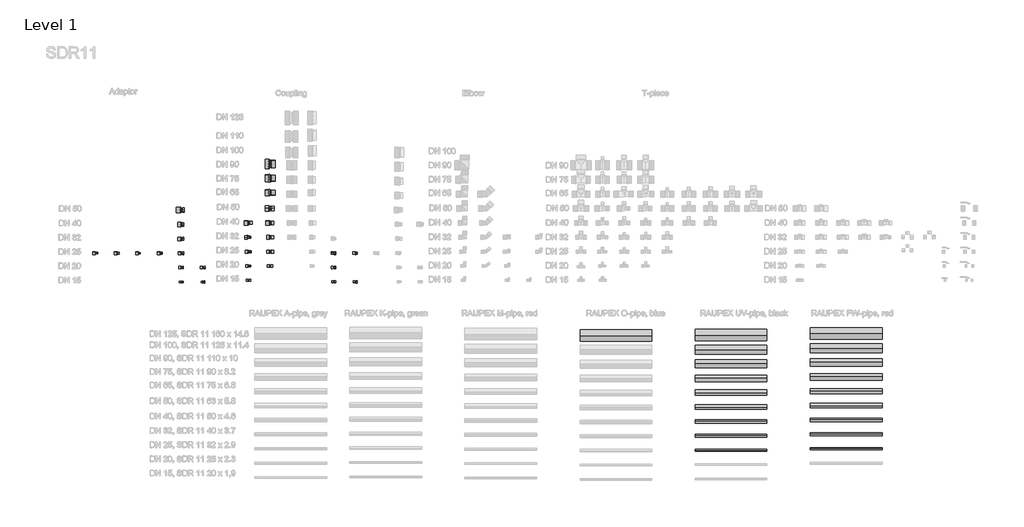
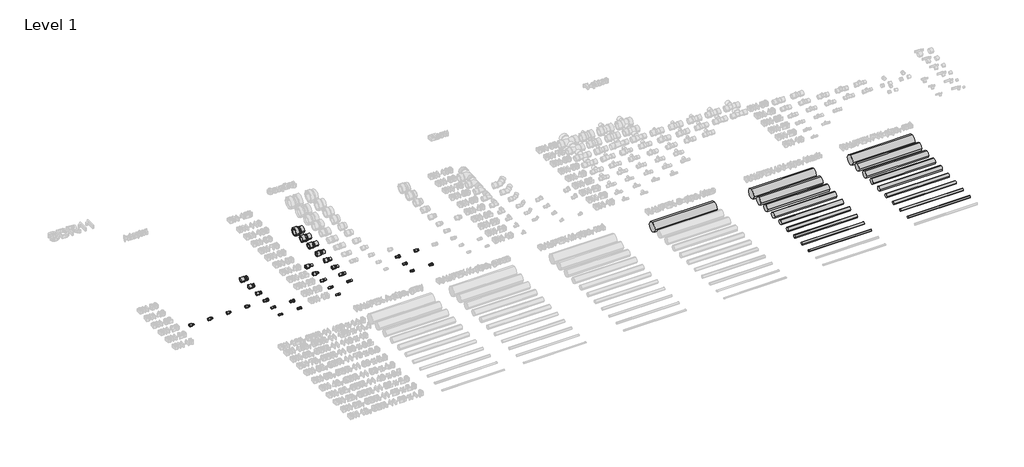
# One storey, part 2 of 15: 73 pipe fittings, 19 pipe segments.
"""IFC4 building model written with IfcOpenShell, lengths in millimetres."""

from ifc_helpers import new_model, si_unit, point, frame, frame_2d, origin, place, context, project, spatial, circle_curve, trimmed, segment, composite_curve, outline, extrude, transform, mapped, element, save
from components import pipe_fitting_af9ba397, pipe_fitting_2c702f34, pipe_fitting_00baa34a, pipe_fitting_dab1daa7, pipe_fitting_0d2e2301, pipe_fitting_c9fbcce2, pipe_fitting_3aadb600, pipe_fitting_378b12e4, pipe_fitting_98be0705, pipe_fitting_7b38b3fe, adapter_taper_sdr11_24_lx_bbcb70a0, adapter_taper_sdr11_24_lx_71f6f1ea, adapter_taper_sdr11_60_lx_8a038b16, adapter_taper_sdr11_60_lx_c4b14268, adapter_with_union_nut_sdr11_a_union_nut_lx_fcff2328, adapter_with_union_nut_sdr11_a_union_nut_lx_60ab4ac3, adapter_with_union_nut_sdr11_a_union_nut_lx_61cef82c, adapter_with_union_nut_sdr11_a_union_nut_lx_7cd68c92, adapter_with_union_nut_sdr11_a_union_nut_lx_64a525c3, adapter_with_union_nut_sdr11_a_union_nut_lx_b692c261, adapter_with_union_nut_sdr11_a_union_nut_lx_88bdcbd4, adapter_with_union_nut_sdr11_a_union_nut_lx_b8b73a84, coupling_union_0bb615ef, coupling_union_24488497, coupling_union_f24334cc, female_adapter_internal_thread_sdr11_female_adapter_lx_e3558355, female_adapter_internal_thread_sdr11_female_adapter_lx_b72150e8, female_adapter_internal_thread_sdr11_female_adapter_lx_0baaf817, female_adapter_internal_thread_sdr11_female_adapter_lx_4a9fde89, female_adapter_internal_thread_sdr11_female_adapter_lx_76b21a85, sleeve_lx_11_2e170aa1, sleeve_lx_11_3fcb8560, sleeve_lx_11_f19e3dbf, sleeve_lx_11_b9b419b6, sleeve_lx_11_e5eab1a7, sleeve_lx_11_ddfe2885, sleeve_rx_11_7b1edd19, sleeve_rx_11_d7843ee1, sleeve_rx_11_d7b6a074

model = new_model("IFC4")

# Units and contexts
model_context = context("Model", 3, world=origin())
ifc_project = project(units=[si_unit("LENGTHUNIT", "METRE", prefix="MILLI")], contexts=[model_context])

# Site, building, storey
site = spatial("IfcSite", under=ifc_project)
building = spatial("IfcBuilding", under=site)
storey = spatial("IfcBuildingStorey", under=building, Name="Level 1", Elevation=0.0)

# Pipe fittings
placement = place(None, origin())
pipe_fitting_shape = pipe_fitting_af9ba397(model_context)
element("IfcPipeFitting", 1, ObjectType="Coupling transistion : C RE SDR11 LX", at=placement, inside=storey, context=model_context, shape_type="MappedRepresentation", body=[
    mapped(pipe_fitting_shape, transform((11503.1112925, 840.5489138, 0.0), x_axis=(1.0, 0.0, 0.0), y_axis=(0.0, 1.0, 0.0), z_axis=(0.0, 0.0, 1.0))),
])
pipe_fitting_2_shape = pipe_fitting_2c702f34(model_context)
element("IfcPipeFitting", 2, ObjectType="Coupling transistion : C RE SDR11 RX", at=placement, inside=storey, context=model_context, shape_type="MappedRepresentation", body=[
    mapped(pipe_fitting_2_shape, transform((11803.1112925, 1660.5489138, 0.0), x_axis=(1.0, 0.0, 0.0), y_axis=(0.0, 1.0, 0.0), z_axis=(0.0, 0.0, 1.0))),
])
pipe_fitting_3_shape = pipe_fitting_00baa34a(model_context)
element("IfcPipeFitting", 3, ObjectType="Coupling transistion : C RE SDR11 LX", at=placement, inside=storey, context=model_context, shape_type="MappedRepresentation", body=[
    mapped(pipe_fitting_3_shape, transform((11503.1112925, 640.5489138, 0.0), x_axis=(1.0, 0.0, 0.0), y_axis=(0.0, 1.0, 0.0), z_axis=(0.0, 0.0, 1.0))),
])
pipe_fitting_4_shape = pipe_fitting_dab1daa7(model_context)
element("IfcPipeFitting", 4, ObjectType="Coupling transistion : C RE SDR11 LX", at=placement, inside=storey, context=model_context, shape_type="MappedRepresentation", body=[
    mapped(pipe_fitting_4_shape, transform((11503.1112925, 1040.5489138, 0.0), x_axis=(1.0, 0.0, 0.0), y_axis=(0.0, 0.0, -1.0), z_axis=(0.0, 1.0, 0.0))),
])
pipe_fitting_5_shape = pipe_fitting_0d2e2301(model_context)
element("IfcPipeFitting", 5, ObjectType="Coupling transistion : C RE SDR11 LX", at=placement, inside=storey, context=model_context, shape_type="MappedRepresentation", body=[
    mapped(pipe_fitting_5_shape, transform((11803.1112925, 1040.5489138, 0.0), x_axis=(1.0, 0.0, 0.0), y_axis=(0.0, 1.0, 0.0), z_axis=(0.0, 0.0, 1.0))),
])
pipe_fitting_6_shape = pipe_fitting_c9fbcce2(model_context)
element("IfcPipeFitting", 6, ObjectType="Coupling transistion : C RE SDR11 LX", at=placement, inside=storey, context=model_context, shape_type="MappedRepresentation", body=[
    mapped(pipe_fitting_6_shape, transform((11503.1112925, 1240.5489138, 0.0), x_axis=(1.0, 0.0, 0.0), y_axis=(0.0, 1.0, 0.0), z_axis=(0.0, 0.0, 1.0))),
])
pipe_fitting_7_shape = pipe_fitting_3aadb600(model_context)
element("IfcPipeFitting", 7, ObjectType="Coupling transistion : C RE SDR11 LX", at=placement, inside=storey, context=model_context, shape_type="MappedRepresentation", body=[
    mapped(pipe_fitting_7_shape, transform((11803.1112925, 1240.5489138, 0.0), x_axis=(1.0, 0.0, 0.0), y_axis=(0.0, 1.0, 0.0), z_axis=(0.0, 0.0, 1.0))),
])
pipe_fitting_8_shape = pipe_fitting_378b12e4(model_context)
element("IfcPipeFitting", 8, ObjectType="Coupling transistion : C RE SDR11 LX", at=placement, inside=storey, context=model_context, shape_type="MappedRepresentation", body=[
    mapped(pipe_fitting_8_shape, transform((11803.1112925, 1440.5489138, 0.0), x_axis=(1.0, 0.0, 0.0), y_axis=(0.0, 0.0, -1.0), z_axis=(0.0, 1.0, 0.0))),
])
pipe_fitting_9_shape = pipe_fitting_98be0705(model_context)
element("IfcPipeFitting", 9, ObjectType="Coupling transistion : C RE SDR11 RX", at=placement, inside=storey, context=model_context, shape_type="MappedRepresentation", body=[
    mapped(pipe_fitting_9_shape, transform((11803.1112925, 1860.5489138, 0.0), x_axis=(1.0, 0.0, 0.0), y_axis=(0.0, 1.0, 0.0), z_axis=(0.0, 0.0, 1.0))),
])
pipe_fitting_10_shape = pipe_fitting_7b38b3fe(model_context)
element("IfcPipeFitting", 10, ObjectType="Coupling transistion : C RE SDR11 RX", at=placement, inside=storey, context=model_context, shape_type="MappedRepresentation", body=[
    mapped(pipe_fitting_10_shape, transform((11803.1112925, 2060.5489138, 0.0), x_axis=(1.0, 0.0, 0.0), y_axis=(0.0, 1.0, 0.0), z_axis=(0.0, 0.0, 1.0))),
])
adapter_taper_sdr11_24_lx_shape = adapter_taper_sdr11_24_lx_bbcb70a0(model_context)
element("IfcPipeFitting", 11, ObjectType="Adapter taper SDR11 LX 24 Grad : Adapter taper SDR11 24 LX", at=placement, inside=storey, context=model_context, shape_type="MappedRepresentation", body=[
    mapped(adapter_taper_sdr11_24_lx_shape, transform((9376.3241815, 819.0534305, 0.0), x_axis=(1.0, 0.0, 0.0), y_axis=(0.0, 1.0, 0.0), z_axis=(0.0, 0.0, 1.0))),
])
adapter_taper_sdr11_24_lx_2_shape = adapter_taper_sdr11_24_lx_71f6f1ea(model_context)
element("IfcPipeFitting", 12, ObjectType="Adapter taper SDR11 LX 24 Grad : Adapter taper SDR11 24 LX", at=placement, inside=storey, context=model_context, shape_type="MappedRepresentation", body=[
    mapped(adapter_taper_sdr11_24_lx_2_shape, transform((9676.3241815, 819.0534305, 0.0), x_axis=(1.0, 0.0, 0.0), y_axis=(0.0, 1.0, 0.0), z_axis=(0.0, 0.0, 1.0))),
])
adapter_taper_sdr11_60_lx_shape = adapter_taper_sdr11_60_lx_8a038b16(model_context)
element("IfcPipeFitting", 13, ObjectType="Adapter taper SDR11 LX 60 Grad : Adapter taper SDR11 60 LX", at=placement, inside=storey, context=model_context, shape_type="MappedRepresentation", body=[
    mapped(adapter_taper_sdr11_60_lx_shape, transform((10276.3241815, 819.0534305, 0.0), x_axis=(1.0, 0.0, 0.0), y_axis=(0.0, 1.0, 0.0), z_axis=(0.0, 0.0, 1.0))),
])
adapter_taper_sdr11_60_lx_2_shape = adapter_taper_sdr11_60_lx_c4b14268(model_context)
element("IfcPipeFitting", 14, ObjectType="Adapter taper SDR11 LX 60 Grad : Adapter taper SDR11 60 LX", at=placement, inside=storey, context=model_context, shape_type="MappedRepresentation", body=[
    mapped(adapter_taper_sdr11_60_lx_2_shape, transform((9976.3241815, 819.0534305, 0.0), x_axis=(1.0, 0.0, 0.0), y_axis=(0.0, 1.0, 0.0), z_axis=(0.0, 0.0, 1.0))),
])
adapter_with_union_nut_sdr11_a_union_nut_lx_shape = adapter_with_union_nut_sdr11_a_union_nut_lx_fcff2328(model_context)
element("IfcPipeFitting", 15, ObjectType="Adapter with union nut SDR11 : A union nut LX", at=placement, inside=storey, context=model_context, shape_type="MappedRepresentation", body=[
    mapped(adapter_with_union_nut_sdr11_a_union_nut_lx_shape, transform((10876.3241815, 419.0534305, 0.0), x_axis=(1.0, 0.0, 0.0), y_axis=(0.0, 1.0, 0.0), z_axis=(0.0, 0.0, 1.0))),
])
adapter_with_union_nut_sdr11_a_union_nut_lx_2_shape = adapter_with_union_nut_sdr11_a_union_nut_lx_60ab4ac3(model_context)
element("IfcPipeFitting", 16, ObjectType="Adapter with union nut SDR11 : A union nut LX", at=placement, inside=storey, context=model_context, shape_type="MappedRepresentation", body=[
    mapped(adapter_with_union_nut_sdr11_a_union_nut_lx_2_shape, transform((10576.3241815, 419.0534305, 0.0), x_axis=(1.0, 0.0, 0.0), y_axis=(0.0, 1.0, 0.0), z_axis=(0.0, 0.0, 1.0))),
])
adapter_with_union_nut_sdr11_a_union_nut_lx_3_shape = adapter_with_union_nut_sdr11_a_union_nut_lx_61cef82c(model_context)
element("IfcPipeFitting", 17, ObjectType="Adapter with union nut SDR11 : A union nut LX", at=placement, inside=storey, context=model_context, shape_type="MappedRepresentation", body=[
    mapped(adapter_with_union_nut_sdr11_a_union_nut_lx_3_shape, transform((10576.3241815, 619.0534305, 0.0), x_axis=(1.0, 0.0, 0.0), y_axis=(0.0, 1.0, 0.0), z_axis=(0.0, 0.0, 1.0))),
])
adapter_with_union_nut_sdr11_a_union_nut_lx_4_shape = adapter_with_union_nut_sdr11_a_union_nut_lx_7cd68c92(model_context)
element("IfcPipeFitting", 18, ObjectType="Adapter with union nut SDR11 : A union nut LX", at=placement, inside=storey, context=model_context, shape_type="MappedRepresentation", body=[
    mapped(adapter_with_union_nut_sdr11_a_union_nut_lx_4_shape, transform((10876.3241815, 619.0534305, 0.0), x_axis=(1.0, 0.0, 0.0), y_axis=(0.0, 1.0, 0.0), z_axis=(0.0, 0.0, 1.0))),
])
adapter_with_union_nut_sdr11_a_union_nut_lx_5_shape = adapter_with_union_nut_sdr11_a_union_nut_lx_64a525c3(model_context)
element("IfcPipeFitting", 19, ObjectType="Adapter with union nut SDR11 : A union nut LX", at=placement, inside=storey, context=model_context, shape_type="MappedRepresentation", body=[
    mapped(adapter_with_union_nut_sdr11_a_union_nut_lx_5_shape, transform((10576.3241815, 819.0534305, 0.0), x_axis=(1.0, 0.0, 0.0), y_axis=(0.0, 1.0, 0.0), z_axis=(0.0, 0.0, 1.0))),
])
adapter_with_union_nut_sdr11_a_union_nut_lx_6_shape = adapter_with_union_nut_sdr11_a_union_nut_lx_b692c261(model_context)
element("IfcPipeFitting", 20, ObjectType="Adapter with union nut SDR11 : A union nut LX", at=placement, inside=storey, context=model_context, shape_type="MappedRepresentation", body=[
    mapped(adapter_with_union_nut_sdr11_a_union_nut_lx_6_shape, transform((10576.3241815, 1019.0534305, 0.0), x_axis=(1.0, 0.0, 0.0), y_axis=(0.0, 1.0, 0.0), z_axis=(0.0, 0.0, 1.0))),
])
adapter_with_union_nut_sdr11_a_union_nut_lx_7_shape = adapter_with_union_nut_sdr11_a_union_nut_lx_88bdcbd4(model_context)
element("IfcPipeFitting", 21, ObjectType="Adapter with union nut SDR11 : A union nut LX", at=placement, inside=storey, context=model_context, shape_type="MappedRepresentation", body=[
    mapped(adapter_with_union_nut_sdr11_a_union_nut_lx_7_shape, transform((10576.3241815, 1219.0534305, 0.0), x_axis=(1.0, 0.0, 0.0), y_axis=(0.0, 1.0, 0.0), z_axis=(0.0, 0.0, 1.0))),
])
adapter_with_union_nut_sdr11_a_union_nut_lx_8_shape = adapter_with_union_nut_sdr11_a_union_nut_lx_b8b73a84(model_context)
element("IfcPipeFitting", 22, ObjectType="Adapter with union nut SDR11 : A union nut LX", at=placement, inside=storey, context=model_context, shape_type="MappedRepresentation", body=[
    mapped(adapter_with_union_nut_sdr11_a_union_nut_lx_8_shape, transform((10576.3241815, 1419.0534305, 0.0), x_axis=(1.0, 0.0, 0.0), y_axis=(0.0, 1.0, 0.0), z_axis=(0.0, 0.0, 1.0))),
])
coupling_union_shape = coupling_union_0bb615ef(model_context)
element("IfcPipeFitting", 23, ObjectType="Coupling union : C EQ SDR11 LX", at=placement, inside=storey, context=model_context, shape_type="MappedRepresentation", body=[
    mapped(coupling_union_shape, transform((11503.1112925, 440.5489138, 0.0), x_axis=(1.0, 0.0, 0.0), y_axis=(0.0, 1.0, 0.0), z_axis=(0.0, 0.0, 1.0))),
])
coupling_union_2_shape = coupling_union_24488497(model_context)
element("IfcPipeFitting", 24, ObjectType="Coupling union : C EQ SDR11 LX", at=placement, inside=storey, context=model_context, shape_type="MappedRepresentation", body=[
    mapped(coupling_union_2_shape, transform((11803.1112925, 640.5489138, 0.0), x_axis=(1.0, 0.0, 0.0), y_axis=(0.0, 1.0, 0.0), z_axis=(0.0, 0.0, 1.0))),
])
coupling_union_3_shape = coupling_union_f24334cc(model_context)
element("IfcPipeFitting", 25, ObjectType="Coupling union : C EQ SDR11 LX", at=placement, inside=storey, context=model_context, shape_type="MappedRepresentation", body=[
    mapped(coupling_union_3_shape, transform((11803.1112925, 840.5489138, 0.0), x_axis=(1.0, 0.0, 0.0), y_axis=(0.0, 1.0, 0.0), z_axis=(0.0, 0.0, 1.0))),
])
female_adapter_internal_thread_sdr11_female_adapter_lx_shape = female_adapter_internal_thread_sdr11_female_adapter_lx_e3558355(model_context)
element("IfcPipeFitting", 26, ObjectType="Female adapter internal thread SDR11 : Female adapter LX", at=placement, inside=storey, context=model_context, shape_type="MappedRepresentation", body=[
    mapped(female_adapter_internal_thread_sdr11_female_adapter_lx_shape, transform((12696.8014725, 420.5489138, 0.0), x_axis=(1.0, 0.0, 0.0), y_axis=(0.0, 1.0, 0.0), z_axis=(0.0, 0.0, 1.0))),
])
female_adapter_internal_thread_sdr11_female_adapter_lx_2_shape = female_adapter_internal_thread_sdr11_female_adapter_lx_b72150e8(model_context)
element("IfcPipeFitting", 27, ObjectType="Female adapter internal thread SDR11 : Female adapter LX", at=placement, inside=storey, context=model_context, shape_type="MappedRepresentation", body=[
    mapped(female_adapter_internal_thread_sdr11_female_adapter_lx_2_shape, transform((12996.8014725, 420.5489138, 0.0), x_axis=(1.0, 0.0, 0.0), y_axis=(0.0, 1.0, 0.0), z_axis=(0.0, 0.0, 1.0))),
])
female_adapter_internal_thread_sdr11_female_adapter_lx_3_shape = female_adapter_internal_thread_sdr11_female_adapter_lx_0baaf817(model_context)
element("IfcPipeFitting", 28, ObjectType="Female adapter internal thread SDR11 : Female adapter LX", at=placement, inside=storey, context=model_context, shape_type="MappedRepresentation", body=[
    mapped(female_adapter_internal_thread_sdr11_female_adapter_lx_3_shape, transform((12696.8014725, 620.5489138, 0.0), x_axis=(1.0, 0.0, 0.0), y_axis=(0.0, 1.0, 0.0), z_axis=(0.0, 0.0, 1.0))),
])
female_adapter_internal_thread_sdr11_female_adapter_lx_4_shape = female_adapter_internal_thread_sdr11_female_adapter_lx_4a9fde89(model_context)
element("IfcPipeFitting", 29, ObjectType="Female adapter internal thread SDR11 : Female adapter LX", at=placement, inside=storey, context=model_context, shape_type="MappedRepresentation", body=[
    mapped(female_adapter_internal_thread_sdr11_female_adapter_lx_4_shape, transform((12696.8014725, 820.5489138, 0.0), x_axis=(1.0, 0.0, 0.0), y_axis=(0.0, 1.0, 0.0), z_axis=(0.0, 0.0, 1.0))),
])
female_adapter_internal_thread_sdr11_female_adapter_lx_5_shape = female_adapter_internal_thread_sdr11_female_adapter_lx_76b21a85(model_context)
element("IfcPipeFitting", 30, ObjectType="Female adapter internal thread SDR11 : Female adapter LX", at=placement, inside=storey, context=model_context, shape_type="MappedRepresentation", body=[
    mapped(female_adapter_internal_thread_sdr11_female_adapter_lx_5_shape, transform((12996.8014725, 820.5489138, 0.0), x_axis=(1.0, 0.0, 0.0), y_axis=(0.0, 1.0, 0.0), z_axis=(0.0, 0.0, 1.0))),
])
sleeve_lx_11_shape = sleeve_lx_11_2e170aa1(model_context)
element("IfcPipeFitting", 31, ObjectType="Sleeve : LX 11", at=placement, inside=storey, context=model_context, shape_type="MappedRepresentation", body=[
    mapped(sleeve_lx_11_shape, transform((9332.6241815, 819.0534305, 0.0), x_axis=(1.0, 0.0, 0.0), y_axis=(0.0, 1.0, 0.0), z_axis=(0.0, 0.0, 1.0))),
])
element("IfcPipeFitting", 32, ObjectType="Sleeve : LX 11", at=placement, inside=storey, context=model_context, shape_type="MappedRepresentation", body=[
    mapped(sleeve_lx_11_shape, transform((9632.4241815, 819.0534305, 0.0), x_axis=(1.0, 0.0, 0.0), y_axis=(0.0, 1.0, 0.0), z_axis=(0.0, 0.0, 1.0))),
])
element("IfcPipeFitting", 33, ObjectType="Sleeve : LX 11", at=placement, inside=storey, context=model_context, shape_type="MappedRepresentation", body=[
    mapped(sleeve_lx_11_shape, transform((10232.4241815, 819.0534305, 0.0), x_axis=(1.0, 0.0, 0.0), y_axis=(0.0, 1.0, 0.0), z_axis=(0.0, 0.0, 1.0))),
])
element("IfcPipeFitting", 34, ObjectType="Sleeve : LX 11", at=placement, inside=storey, context=model_context, shape_type="MappedRepresentation", body=[
    mapped(sleeve_lx_11_shape, transform((9932.4241815, 819.0534305, 0.0), x_axis=(1.0, 0.0, 0.0), y_axis=(0.0, 1.0, 0.0), z_axis=(0.0, 0.0, 1.0))),
])
element("IfcPipeFitting", 35, ObjectType="Sleeve : LX 11", at=placement, inside=storey, context=model_context, shape_type="MappedRepresentation", body=[
    mapped(sleeve_lx_11_shape, transform((10525.3241815, 819.0534305, 0.0), x_axis=(1.0, 0.0, 0.0), y_axis=(0.0, 1.0, 0.0), z_axis=(0.0, 0.0, 1.0))),
])
element("IfcPipeFitting", 36, ObjectType="Sleeve : LX 11", at=placement, inside=storey, context=model_context, shape_type="MappedRepresentation", body=[
    mapped(sleeve_lx_11_shape, transform((11756.1112925, 840.5489138, 0.0), x_axis=(1.0, 0.0, 0.0), y_axis=(0.0, 1.0, 0.0), z_axis=(0.0, 0.0, 1.0))),
])
element("IfcPipeFitting", 37, ObjectType="Sleeve : LX 11", at=placement, inside=storey, context=model_context, shape_type="MappedRepresentation", body=[
    mapped(sleeve_lx_11_shape, transform((11815.1112925, 840.5489138, 0.0), x_axis=(1.0, 0.0, 0.0), y_axis=(0.0, 1.0, 0.0), z_axis=(0.0, 0.0, 1.0))),
])
element("IfcPipeFitting", 38, ObjectType="Sleeve : LX 11", at=placement, inside=storey, context=model_context, shape_type="MappedRepresentation", body=[
    mapped(sleeve_lx_11_shape, transform((12952.9014725, 820.5489138, 0.0), x_axis=(1.0, 0.0, 0.0), y_axis=(0.0, 1.0, 0.0), z_axis=(0.0, 0.0, 1.0))),
])
element("IfcPipeFitting", 39, ObjectType="Sleeve : LX 11", at=placement, inside=storey, context=model_context, shape_type="MappedRepresentation", body=[
    mapped(sleeve_lx_11_shape, transform((11456.2112925, 840.5489138, 0.0), x_axis=(1.0, 0.0, 0.0), y_axis=(0.0, 1.0, 0.0), z_axis=(0.0, 0.0, 1.0))),
])
element("IfcPipeFitting", 40, ObjectType="Sleeve : LX 11", at=placement, inside=storey, context=model_context, shape_type="MappedRepresentation", body=[
    mapped(sleeve_lx_11_shape, transform((11815.1112925, 1040.5489138, 0.0), x_axis=(1.0, 0.0, 0.0), y_axis=(0.0, 1.0, 0.0), z_axis=(0.0, 0.0, 1.0))),
])
element("IfcPipeFitting", 41, ObjectType="Sleeve : LX 11", at=placement, inside=storey, context=model_context, shape_type="MappedRepresentation", body=[
    mapped(sleeve_lx_11_shape, transform((11516.6112925, 1240.5489138, 0.0), x_axis=(1.0, 0.0, 0.0), y_axis=(0.0, 1.0, 0.0), z_axis=(0.0, 0.0, 1.0))),
])
sleeve_lx_11_2_shape = sleeve_lx_11_3fcb8560(model_context)
element("IfcPipeFitting", 42, ObjectType="Sleeve : LX 11", at=placement, inside=storey, context=model_context, shape_type="MappedRepresentation", body=[
    mapped(sleeve_lx_11_2_shape, transform((10538.7241815, 419.0534305, 0.0), x_axis=(1.0, 0.0, 0.0), y_axis=(0.0, 1.0, 0.0), z_axis=(0.0, 0.0, 1.0))),
])
element("IfcPipeFitting", 43, ObjectType="Sleeve : LX 11", at=placement, inside=storey, context=model_context, shape_type="MappedRepresentation", body=[
    mapped(sleeve_lx_11_2_shape, transform((10842.3241815, 419.0534305, 0.0), x_axis=(1.0, 0.0, 0.0), y_axis=(0.0, 1.0, 0.0), z_axis=(0.0, 0.0, 1.0))),
])
element("IfcPipeFitting", 44, ObjectType="Sleeve : LX 11", at=placement, inside=storey, context=model_context, shape_type="MappedRepresentation", body=[
    mapped(sleeve_lx_11_2_shape, transform((11472.1112925, 440.5489138, 0.0), x_axis=(1.0, 0.0, 0.0), y_axis=(0.0, 1.0, 0.0), z_axis=(0.0, 0.0, 1.0))),
])
element("IfcPipeFitting", 45, ObjectType="Sleeve : LX 11", at=placement, inside=storey, context=model_context, shape_type="MappedRepresentation", body=[
    mapped(sleeve_lx_11_2_shape, transform((11514.1112925, 440.5489138, 0.0), x_axis=(1.0, 0.0, 0.0), y_axis=(0.0, 1.0, 0.0), z_axis=(0.0, 0.0, 1.0))),
])
element("IfcPipeFitting", 46, ObjectType="Sleeve : LX 11", at=placement, inside=storey, context=model_context, shape_type="MappedRepresentation", body=[
    mapped(sleeve_lx_11_2_shape, transform((12660.3014725, 420.5489138, 0.0), x_axis=(1.0, 0.0, 0.0), y_axis=(0.0, 1.0, 0.0), z_axis=(0.0, 0.0, 1.0))),
])
element("IfcPipeFitting", 47, ObjectType="Sleeve : LX 11", at=placement, inside=storey, context=model_context, shape_type="MappedRepresentation", body=[
    mapped(sleeve_lx_11_2_shape, transform((12958.2014725, 420.5489138, 0.0), x_axis=(1.0, 0.0, 0.0), y_axis=(0.0, 1.0, 0.0), z_axis=(0.0, 0.0, 1.0))),
])
element("IfcPipeFitting", 48, ObjectType="Sleeve : LX 11", at=placement, inside=storey, context=model_context, shape_type="MappedRepresentation", body=[
    mapped(sleeve_lx_11_2_shape, transform((11514.1112925, 640.5489138, 0.0), x_axis=(1.0, 0.0, 0.0), y_axis=(0.0, 1.0, 0.0), z_axis=(0.0, 0.0, 1.0))),
])
element("IfcPipeFitting", 49, ObjectType="Sleeve : LX 11", at=placement, inside=storey, context=model_context, shape_type="MappedRepresentation", body=[
    mapped(sleeve_lx_11_2_shape, transform((11514.1112925, 1040.5489138, 0.0), x_axis=(1.0, 0.0, 0.0), y_axis=(0.0, 0.0, -1.0), z_axis=(0.0, 1.0, 0.0))),
])
sleeve_lx_11_3_shape = sleeve_lx_11_f19e3dbf(model_context)
element("IfcPipeFitting", 50, ObjectType="Sleeve : LX 11", at=placement, inside=storey, context=model_context, shape_type="MappedRepresentation", body=[
    mapped(sleeve_lx_11_3_shape, transform((10534.5241815, 619.0534305, 0.0), x_axis=(1.0, 0.0, 0.0), y_axis=(0.0, 1.0, 0.0), z_axis=(0.0, 0.0, 1.0))),
])
element("IfcPipeFitting", 51, ObjectType="Sleeve : LX 11", at=placement, inside=storey, context=model_context, shape_type="MappedRepresentation", body=[
    mapped(sleeve_lx_11_3_shape, transform((10833.6241815, 619.0534305, 0.0), x_axis=(1.0, 0.0, 0.0), y_axis=(0.0, 1.0, 0.0), z_axis=(0.0, 0.0, 1.0))),
])
element("IfcPipeFitting", 52, ObjectType="Sleeve : LX 11", at=placement, inside=storey, context=model_context, shape_type="MappedRepresentation", body=[
    mapped(sleeve_lx_11_3_shape, transform((11765.1112925, 640.5489138, 0.0), x_axis=(1.0, 0.0, 0.0), y_axis=(0.0, 1.0, 0.0), z_axis=(0.0, 0.0, 1.0))),
])
element("IfcPipeFitting", 53, ObjectType="Sleeve : LX 11", at=placement, inside=storey, context=model_context, shape_type="MappedRepresentation", body=[
    mapped(sleeve_lx_11_3_shape, transform((11814.1112925, 640.5489138, 0.0), x_axis=(1.0, 0.0, 0.0), y_axis=(0.0, 1.0, 0.0), z_axis=(0.0, 0.0, 1.0))),
])
element("IfcPipeFitting", 54, ObjectType="Sleeve : LX 11", at=placement, inside=storey, context=model_context, shape_type="MappedRepresentation", body=[
    mapped(sleeve_lx_11_3_shape, transform((12652.6014725, 620.5489138, 0.0), x_axis=(1.0, 0.0, 0.0), y_axis=(0.0, 1.0, 0.0), z_axis=(0.0, 0.0, 1.0))),
])
element("IfcPipeFitting", 55, ObjectType="Sleeve : LX 11", at=placement, inside=storey, context=model_context, shape_type="MappedRepresentation", body=[
    mapped(sleeve_lx_11_3_shape, transform((12651.2014725, 820.5489138, 0.0), x_axis=(1.0, 0.0, 0.0), y_axis=(0.0, 1.0, 0.0), z_axis=(0.0, 0.0, 1.0))),
])
element("IfcPipeFitting", 56, ObjectType="Sleeve : LX 11", at=placement, inside=storey, context=model_context, shape_type="MappedRepresentation", body=[
    mapped(sleeve_lx_11_3_shape, transform((11465.1112925, 640.5489138, 0.0), x_axis=(1.0, 0.0, 0.0), y_axis=(0.0, 1.0, 0.0), z_axis=(0.0, 0.0, 1.0))),
])
element("IfcPipeFitting", 57, ObjectType="Sleeve : LX 11", at=placement, inside=storey, context=model_context, shape_type="MappedRepresentation", body=[
    mapped(sleeve_lx_11_3_shape, transform((11514.1112925, 840.5489138, 0.0), x_axis=(1.0, 0.0, 0.0), y_axis=(0.0, 1.0, 0.0), z_axis=(0.0, 0.0, 1.0))),
])
sleeve_lx_11_4_shape = sleeve_lx_11_b9b419b6(model_context)
element("IfcPipeFitting", 58, ObjectType="Sleeve : LX 11", at=placement, inside=storey, context=model_context, shape_type="MappedRepresentation", body=[
    mapped(sleeve_lx_11_4_shape, transform((10521.5241815, 1019.0534305, 0.0), x_axis=(1.0, 0.0, 0.0), y_axis=(0.0, 1.0, 0.0), z_axis=(0.0, 0.0, 1.0))),
])
element("IfcPipeFitting", 59, ObjectType="Sleeve : LX 11", at=placement, inside=storey, context=model_context, shape_type="MappedRepresentation", body=[
    mapped(sleeve_lx_11_4_shape, transform((11449.1112925, 1040.5489138, 0.0), x_axis=(1.0, 0.0, 0.0), y_axis=(0.0, 0.0, -1.0), z_axis=(0.0, 1.0, 0.0))),
])
element("IfcPipeFitting", 60, ObjectType="Sleeve : LX 11", at=placement, inside=storey, context=model_context, shape_type="MappedRepresentation", body=[
    mapped(sleeve_lx_11_4_shape, transform((11754.1112925, 1040.5489138, 0.0), x_axis=(1.0, 0.0, 0.0), y_axis=(0.0, 1.0, 0.0), z_axis=(0.0, 0.0, 1.0))),
])
element("IfcPipeFitting", 61, ObjectType="Sleeve : LX 11", at=placement, inside=storey, context=model_context, shape_type="MappedRepresentation", body=[
    mapped(sleeve_lx_11_4_shape, transform((11817.2112925, 1240.5489138, 0.0), x_axis=(1.0, 0.0, 0.0), y_axis=(0.0, 1.0, 0.0), z_axis=(0.0, 0.0, 1.0))),
])
sleeve_lx_11_5_shape = sleeve_lx_11_e5eab1a7(model_context)
element("IfcPipeFitting", 62, ObjectType="Sleeve : LX 11", at=placement, inside=storey, context=model_context, shape_type="MappedRepresentation", body=[
    mapped(sleeve_lx_11_5_shape, transform((10515.3241815, 1219.0534305, 0.0), x_axis=(1.0, 0.0, 0.0), y_axis=(0.0, 1.0, 0.0), z_axis=(0.0, 0.0, 1.0))),
])
element("IfcPipeFitting", 63, ObjectType="Sleeve : LX 11", at=placement, inside=storey, context=model_context, shape_type="MappedRepresentation", body=[
    mapped(sleeve_lx_11_5_shape, transform((11446.1112925, 1240.5489138, 0.0), x_axis=(1.0, 0.0, 0.0), y_axis=(0.0, 1.0, 0.0), z_axis=(0.0, 0.0, 1.0))),
])
element("IfcPipeFitting", 64, ObjectType="Sleeve : LX 11", at=placement, inside=storey, context=model_context, shape_type="MappedRepresentation", body=[
    mapped(sleeve_lx_11_5_shape, transform((11745.3112925, 1240.5489138, 0.0), x_axis=(1.0, 0.0, 0.0), y_axis=(0.0, 1.0, 0.0), z_axis=(0.0, 0.0, 1.0))),
])
element("IfcPipeFitting", 65, ObjectType="Sleeve : LX 11", at=placement, inside=storey, context=model_context, shape_type="MappedRepresentation", body=[
    mapped(sleeve_lx_11_5_shape, transform((11816.9112925, 1440.5489138, 0.0), x_axis=(1.0, 0.0, 0.0), y_axis=(0.0, 0.0, -1.0), z_axis=(0.0, 1.0, 0.0))),
])
sleeve_lx_11_6_shape = sleeve_lx_11_ddfe2885(model_context)
element("IfcPipeFitting", 66, ObjectType="Sleeve : LX 11", at=placement, inside=storey, context=model_context, shape_type="MappedRepresentation", body=[
    mapped(sleeve_lx_11_6_shape, transform((10500.3241815, 1419.0534305, 0.0), x_axis=(1.0, 0.0, 0.0), y_axis=(0.0, 1.0, 0.0), z_axis=(0.0, 0.0, 1.0))),
])
element("IfcPipeFitting", 67, ObjectType="Sleeve : LX 11", at=placement, inside=storey, context=model_context, shape_type="MappedRepresentation", body=[
    mapped(sleeve_lx_11_6_shape, transform((11732.2112925, 1440.5489138, 0.0), x_axis=(1.0, 0.0, 0.0), y_axis=(0.0, 0.0, -1.0), z_axis=(0.0, 1.0, 0.0))),
])
element("IfcPipeFitting", 68, ObjectType="Sleeve : LX 11", at=placement, inside=storey, context=model_context, shape_type="MappedRepresentation", body=[
    mapped(sleeve_lx_11_6_shape, transform((11821.0112925, 1660.5489138, 0.0), x_axis=(1.0, 0.0, 0.0), y_axis=(0.0, 1.0, 0.0), z_axis=(0.0, 0.0, 1.0))),
])
sleeve_rx_11_shape = sleeve_rx_11_7b1edd19(model_context)
element("IfcPipeFitting", 69, ObjectType="Sleeve : RX 11", at=placement, inside=storey, context=model_context, shape_type="MappedRepresentation", body=[
    mapped(sleeve_rx_11_shape, transform((11733.0112925, 1860.5489138, 0.0), x_axis=(1.0, 0.0, 0.0), y_axis=(0.0, 1.0, 0.0), z_axis=(0.0, 0.0, 1.0))),
])
element("IfcPipeFitting", 70, ObjectType="Sleeve : RX 11", at=placement, inside=storey, context=model_context, shape_type="MappedRepresentation", body=[
    mapped(sleeve_rx_11_shape, transform((11820.9112925, 2060.5489138, 0.0), x_axis=(1.0, 0.0, 0.0), y_axis=(0.0, 1.0, 0.0), z_axis=(0.0, 0.0, 1.0))),
])
sleeve_rx_11_2_shape = sleeve_rx_11_d7843ee1(model_context)
element("IfcPipeFitting", 71, ObjectType="Sleeve : RX 11", at=placement, inside=storey, context=model_context, shape_type="MappedRepresentation", body=[
    mapped(sleeve_rx_11_2_shape, transform((11731.6112925, 2060.5489138, 0.0), x_axis=(1.0, 0.0, 0.0), y_axis=(0.0, 1.0, 0.0), z_axis=(0.0, 0.0, 1.0))),
])
sleeve_rx_11_3_shape = sleeve_rx_11_d7b6a074(model_context)
element("IfcPipeFitting", 72, ObjectType="Sleeve : RX 11", at=placement, inside=storey, context=model_context, shape_type="MappedRepresentation", body=[
    mapped(sleeve_rx_11_3_shape, transform((11733.0112925, 1660.5489138, 0.0), x_axis=(1.0, 0.0, 0.0), y_axis=(0.0, 1.0, 0.0), z_axis=(0.0, 0.0, 1.0))),
])
element("IfcPipeFitting", 73, ObjectType="Sleeve : RX 11", at=placement, inside=storey, context=model_context, shape_type="MappedRepresentation", body=[
    mapped(sleeve_rx_11_3_shape, transform((11821.3112925, 1860.5489138, 0.0), x_axis=(1.0, 0.0, 0.0), y_axis=(0.0, 1.0, 0.0), z_axis=(0.0, 0.0, 1.0))),
])

# Pipe segments
element("IfcPipeSegment", 74, ObjectType="RAUPEX-O Rohr, SDR11, blau bar", at=placement, inside=storey, context=model_context, shape_type="SweptSolid", body=[
    extrude(outline(composite_curve([segment(trimmed(circle_curve(frame_2d((-326.9373535, 0.0)), 80.0), [point((-406.9373535, 0.0))], [point((-326.9373535, 80.0))], False, "CARTESIAN"), True, "CONTINUOUS"), segment(trimmed(circle_curve(frame_2d((-326.9373535, 0.0)), 80.0), [point((-326.9373535, 80.0))], [point((-246.9373535, 0.0))], False, "CARTESIAN"), True, "CONTINUOUS"), segment(trimmed(circle_curve(frame_2d((-326.9373535, 0.0)), 80.0), [point((-246.9373535, 0.0))], [point((-326.9373535, -80.0))], False, "CARTESIAN"), True, "CONTINUOUS"), segment(trimmed(circle_curve(frame_2d((-326.9373535, 0.0)), 80.0), [point((-326.9373535, -80.0))], [point((-406.9373535, 0.0))], False, "CARTESIAN"), True, "CONTINUOUS")], self_intersect=False)), frame((16112.3595402, 0.0, 0.0), z_axis=(1.0, 0.0, 0.0), x_axis=(0.0, 1.0, 0.0)), (0.0, 0.0, 1.0), 1000.0),
])
element("IfcPipeSegment", 75, ObjectType="RAUPEX-UV Rohr, SDR11, schwarz bar", at=placement, inside=storey, context=model_context, shape_type="SweptSolid", body=[
    extrude(outline(composite_curve([segment(trimmed(circle_curve(frame_2d((-1920.9373535, 0.0)), 16.0), [point((-1936.9373535, 0.0))], [point((-1920.9373535, 16.0))], False, "CARTESIAN"), True, "CONTINUOUS"), segment(trimmed(circle_curve(frame_2d((-1920.9373535, 0.0)), 16.0), [point((-1920.9373535, 16.0))], [point((-1904.9373535, 0.0))], False, "CARTESIAN"), True, "CONTINUOUS"), segment(trimmed(circle_curve(frame_2d((-1920.9373535, 0.0)), 16.0), [point((-1904.9373535, 0.0))], [point((-1920.9373535, -16.0))], False, "CARTESIAN"), True, "CONTINUOUS"), segment(trimmed(circle_curve(frame_2d((-1920.9373535, 0.0)), 16.0), [point((-1920.9373535, -16.0))], [point((-1936.9373535, 0.0))], False, "CARTESIAN"), True, "CONTINUOUS")], self_intersect=False)), frame((17712.3595402, 0.0, 0.0), z_axis=(1.0, 0.0, 0.0), x_axis=(0.0, 1.0, 0.0)), (0.0, 0.0, 1.0), 1000.0),
])
element("IfcPipeSegment", 76, ObjectType="RAUPEX-UV Rohr, SDR11, schwarz bar", at=placement, inside=storey, context=model_context, shape_type="SweptSolid", body=[
    extrude(outline(composite_curve([segment(trimmed(circle_curve(frame_2d((-1720.9373535, 0.0)), 20.0), [point((-1740.9373535, 0.0))], [point((-1720.9373535, 20.0))], False, "CARTESIAN"), True, "CONTINUOUS"), segment(trimmed(circle_curve(frame_2d((-1720.9373535, 0.0)), 20.0), [point((-1720.9373535, 20.0))], [point((-1700.9373535, 0.0))], False, "CARTESIAN"), True, "CONTINUOUS"), segment(trimmed(circle_curve(frame_2d((-1720.9373535, 0.0)), 20.0), [point((-1700.9373535, 0.0))], [point((-1720.9373535, -20.0))], False, "CARTESIAN"), True, "CONTINUOUS"), segment(trimmed(circle_curve(frame_2d((-1720.9373535, 0.0)), 20.0), [point((-1720.9373535, -20.0))], [point((-1740.9373535, 0.0))], False, "CARTESIAN"), True, "CONTINUOUS")], self_intersect=False)), frame((17712.3595402, 0.0, 0.0), z_axis=(1.0, 0.0, 0.0), x_axis=(0.0, 1.0, 0.0)), (0.0, 0.0, 1.0), 1000.0),
])
element("IfcPipeSegment", 77, ObjectType="RAUPEX-UV Rohr, SDR11, schwarz bar", at=placement, inside=storey, context=model_context, shape_type="SweptSolid", body=[
    extrude(outline(composite_curve([segment(trimmed(circle_curve(frame_2d((-1520.9373535, 0.0)), 25.0), [point((-1545.9373535, 0.0))], [point((-1520.9373535, 25.0))], False, "CARTESIAN"), True, "CONTINUOUS"), segment(trimmed(circle_curve(frame_2d((-1520.9373535, 0.0)), 25.0), [point((-1520.9373535, 25.0))], [point((-1495.9373535, 0.0))], False, "CARTESIAN"), True, "CONTINUOUS"), segment(trimmed(circle_curve(frame_2d((-1520.9373535, 0.0)), 25.0), [point((-1495.9373535, 0.0))], [point((-1520.9373535, -25.0))], False, "CARTESIAN"), True, "CONTINUOUS"), segment(trimmed(circle_curve(frame_2d((-1520.9373535, 0.0)), 25.0), [point((-1520.9373535, -25.0))], [point((-1545.9373535, 0.0))], False, "CARTESIAN"), True, "CONTINUOUS")], self_intersect=False)), frame((17712.3595402, 0.0, 0.0), z_axis=(1.0, 0.0, 0.0), x_axis=(0.0, 1.0, 0.0)), (0.0, 0.0, 1.0), 1000.0),
])
element("IfcPipeSegment", 78, ObjectType="RAUPEX-UV Rohr, SDR11, schwarz bar", at=placement, inside=storey, context=model_context, shape_type="SweptSolid", body=[
    extrude(outline(composite_curve([segment(trimmed(circle_curve(frame_2d((-1320.9373535, 0.0)), 31.5), [point((-1352.4373535, 0.0))], [point((-1320.9373535, 31.5))], False, "CARTESIAN"), True, "CONTINUOUS"), segment(trimmed(circle_curve(frame_2d((-1320.9373535, 0.0)), 31.5), [point((-1320.9373535, 31.5))], [point((-1289.4373535, 0.0))], False, "CARTESIAN"), True, "CONTINUOUS"), segment(trimmed(circle_curve(frame_2d((-1320.9373535, 0.0)), 31.5), [point((-1289.4373535, 0.0))], [point((-1320.9373535, -31.5))], False, "CARTESIAN"), True, "CONTINUOUS"), segment(trimmed(circle_curve(frame_2d((-1320.9373535, 0.0)), 31.5), [point((-1320.9373535, -31.5))], [point((-1352.4373535, 0.0))], False, "CARTESIAN"), True, "CONTINUOUS")], self_intersect=False)), frame((17712.3595402, 0.0, 0.0), z_axis=(1.0, 0.0, 0.0), x_axis=(0.0, 1.0, 0.0)), (0.0, 0.0, 1.0), 1000.0),
])
element("IfcPipeSegment", 79, ObjectType="RAUPEX-UV Rohr, SDR11, schwarz bar", at=placement, inside=storey, context=model_context, shape_type="SweptSolid", body=[
    extrude(outline(composite_curve([segment(trimmed(circle_curve(frame_2d((-1120.9373535, 0.0)), 37.5), [point((-1158.4373535, 0.0))], [point((-1120.9373535, 37.5))], False, "CARTESIAN"), True, "CONTINUOUS"), segment(trimmed(circle_curve(frame_2d((-1120.9373535, 0.0)), 37.5), [point((-1120.9373535, 37.5))], [point((-1083.4373535, 0.0))], False, "CARTESIAN"), True, "CONTINUOUS"), segment(trimmed(circle_curve(frame_2d((-1120.9373535, 0.0)), 37.5), [point((-1083.4373535, 0.0))], [point((-1120.9373535, -37.5))], False, "CARTESIAN"), True, "CONTINUOUS"), segment(trimmed(circle_curve(frame_2d((-1120.9373535, 0.0)), 37.5), [point((-1120.9373535, -37.5))], [point((-1158.4373535, 0.0))], False, "CARTESIAN"), True, "CONTINUOUS")], self_intersect=False)), frame((17712.3595402, 0.0, 0.0), z_axis=(1.0, 0.0, 0.0), x_axis=(0.0, 1.0, 0.0)), (0.0, 0.0, 1.0), 1000.0),
])
element("IfcPipeSegment", 80, ObjectType="RAUPEX-UV Rohr, SDR11, schwarz bar", at=placement, inside=storey, context=model_context, shape_type="SweptSolid", body=[
    extrude(outline(composite_curve([segment(trimmed(circle_curve(frame_2d((-920.9373535, 0.0)), 45.0), [point((-965.9373535, 0.0))], [point((-920.9373535, 45.0))], False, "CARTESIAN"), True, "CONTINUOUS"), segment(trimmed(circle_curve(frame_2d((-920.9373535, 0.0)), 45.0), [point((-920.9373535, 45.0))], [point((-875.9373535, 0.0))], False, "CARTESIAN"), True, "CONTINUOUS"), segment(trimmed(circle_curve(frame_2d((-920.9373535, 0.0)), 45.0), [point((-875.9373535, 0.0))], [point((-920.9373535, -45.0))], False, "CARTESIAN"), True, "CONTINUOUS"), segment(trimmed(circle_curve(frame_2d((-920.9373535, 0.0)), 45.0), [point((-920.9373535, -45.0))], [point((-965.9373535, 0.0))], False, "CARTESIAN"), True, "CONTINUOUS")], self_intersect=False)), frame((17712.3595402, 0.0, 0.0), z_axis=(1.0, 0.0, 0.0), x_axis=(0.0, 1.0, 0.0)), (0.0, 0.0, 1.0), 1000.0),
])
element("IfcPipeSegment", 81, ObjectType="RAUPEX-UV Rohr, SDR11, schwarz bar", at=placement, inside=storey, context=model_context, shape_type="SweptSolid", body=[
    extrude(outline(composite_curve([segment(trimmed(circle_curve(frame_2d((-720.9373535, 0.0)), 55.0), [point((-775.9373535, 0.0))], [point((-720.9373535, 55.0))], False, "CARTESIAN"), True, "CONTINUOUS"), segment(trimmed(circle_curve(frame_2d((-720.9373535, 0.0)), 55.0), [point((-720.9373535, 55.0))], [point((-665.9373535, 0.0))], False, "CARTESIAN"), True, "CONTINUOUS"), segment(trimmed(circle_curve(frame_2d((-720.9373535, 0.0)), 55.0), [point((-665.9373535, 0.0))], [point((-720.9373535, -55.0))], False, "CARTESIAN"), True, "CONTINUOUS"), segment(trimmed(circle_curve(frame_2d((-720.9373535, 0.0)), 55.0), [point((-720.9373535, -55.0))], [point((-775.9373535, 0.0))], False, "CARTESIAN"), True, "CONTINUOUS")], self_intersect=False)), frame((17712.3595402, 0.0, 0.0), z_axis=(1.0, 0.0, 0.0), x_axis=(0.0, 1.0, 0.0)), (0.0, 0.0, 1.0), 1000.0),
])
element("IfcPipeSegment", 82, ObjectType="RAUPEX-UV Rohr, SDR11, schwarz bar", at=placement, inside=storey, context=model_context, shape_type="SweptSolid", body=[
    extrude(outline(composite_curve([segment(trimmed(circle_curve(frame_2d((-520.9373535, 0.0)), 62.5), [point((-583.4373535, 0.0))], [point((-520.9373535, 62.5))], False, "CARTESIAN"), True, "CONTINUOUS"), segment(trimmed(circle_curve(frame_2d((-520.9373535, 0.0)), 62.5), [point((-520.9373535, 62.5))], [point((-458.4373535, 0.0))], False, "CARTESIAN"), True, "CONTINUOUS"), segment(trimmed(circle_curve(frame_2d((-520.9373535, 0.0)), 62.5), [point((-458.4373535, 0.0))], [point((-520.9373535, -62.5))], False, "CARTESIAN"), True, "CONTINUOUS"), segment(trimmed(circle_curve(frame_2d((-520.9373535, 0.0)), 62.5), [point((-520.9373535, -62.5))], [point((-583.4373535, 0.0))], False, "CARTESIAN"), True, "CONTINUOUS")], self_intersect=False)), frame((17712.3595402, 0.0, 0.0), z_axis=(1.0, 0.0, 0.0), x_axis=(0.0, 1.0, 0.0)), (0.0, 0.0, 1.0), 1000.0),
])
element("IfcPipeSegment", 83, ObjectType="RAUPEX-UV Rohr, SDR11, schwarz bar", at=placement, inside=storey, context=model_context, shape_type="SweptSolid", body=[
    extrude(outline(composite_curve([segment(trimmed(circle_curve(frame_2d((-320.9373535, 0.0)), 80.0), [point((-400.9373535, 0.0))], [point((-320.9373535, 80.0))], False, "CARTESIAN"), True, "CONTINUOUS"), segment(trimmed(circle_curve(frame_2d((-320.9373535, 0.0)), 80.0), [point((-320.9373535, 80.0))], [point((-240.9373535, 0.0))], False, "CARTESIAN"), True, "CONTINUOUS"), segment(trimmed(circle_curve(frame_2d((-320.9373535, 0.0)), 80.0), [point((-240.9373535, 0.0))], [point((-320.9373535, -80.0))], False, "CARTESIAN"), True, "CONTINUOUS"), segment(trimmed(circle_curve(frame_2d((-320.9373535, 0.0)), 80.0), [point((-320.9373535, -80.0))], [point((-400.9373535, 0.0))], False, "CARTESIAN"), True, "CONTINUOUS")], self_intersect=False)), frame((17712.3595402, 0.0, 0.0), z_axis=(1.0, 0.0, 0.0), x_axis=(0.0, 1.0, 0.0)), (0.0, 0.0, 1.0), 1000.0),
])
element("IfcPipeSegment", 84, ObjectType="RAUTHERM FW Rohr, SDR11, rot bar", at=placement, inside=storey, context=model_context, shape_type="SweptSolid", body=[
    extrude(outline(composite_curve([segment(trimmed(circle_curve(frame_2d((-1900.9373535, 0.0)), 16.0), [point((-1916.9373535, 0.0))], [point((-1900.9373535, 16.0))], False, "CARTESIAN"), True, "CONTINUOUS"), segment(trimmed(circle_curve(frame_2d((-1900.9373535, 0.0)), 16.0), [point((-1900.9373535, 16.0))], [point((-1884.9373535, 0.0))], False, "CARTESIAN"), True, "CONTINUOUS"), segment(trimmed(circle_curve(frame_2d((-1900.9373535, 0.0)), 16.0), [point((-1884.9373535, 0.0))], [point((-1900.9373535, -16.0))], False, "CARTESIAN"), True, "CONTINUOUS"), segment(trimmed(circle_curve(frame_2d((-1900.9373535, 0.0)), 16.0), [point((-1900.9373535, -16.0))], [point((-1916.9373535, 0.0))], False, "CARTESIAN"), True, "CONTINUOUS")], self_intersect=False)), frame((19312.3595402, 0.0, 0.0), z_axis=(1.0, 0.0, 0.0), x_axis=(0.0, 1.0, 0.0)), (0.0, 0.0, 1.0), 1000.0),
])
element("IfcPipeSegment", 85, ObjectType="RAUTHERM FW Rohr, SDR11, rot bar", at=placement, inside=storey, context=model_context, shape_type="SweptSolid", body=[
    extrude(outline(composite_curve([segment(trimmed(circle_curve(frame_2d((-1700.9373535, 0.0)), 20.0), [point((-1720.9373535, 0.0))], [point((-1700.9373535, 20.0))], False, "CARTESIAN"), True, "CONTINUOUS"), segment(trimmed(circle_curve(frame_2d((-1700.9373535, 0.0)), 20.0), [point((-1700.9373535, 20.0))], [point((-1680.9373535, 0.0))], False, "CARTESIAN"), True, "CONTINUOUS"), segment(trimmed(circle_curve(frame_2d((-1700.9373535, 0.0)), 20.0), [point((-1680.9373535, 0.0))], [point((-1700.9373535, -20.0))], False, "CARTESIAN"), True, "CONTINUOUS"), segment(trimmed(circle_curve(frame_2d((-1700.9373535, 0.0)), 20.0), [point((-1700.9373535, -20.0))], [point((-1720.9373535, 0.0))], False, "CARTESIAN"), True, "CONTINUOUS")], self_intersect=False)), frame((19312.3595402, 0.0, 0.0), z_axis=(1.0, 0.0, 0.0), x_axis=(0.0, 1.0, 0.0)), (0.0, 0.0, 1.0), 1000.0),
])
element("IfcPipeSegment", 86, ObjectType="RAUTHERM FW Rohr, SDR11, rot bar", at=placement, inside=storey, context=model_context, shape_type="SweptSolid", body=[
    extrude(outline(composite_curve([segment(trimmed(circle_curve(frame_2d((-1500.9373535, 0.0)), 25.0), [point((-1525.9373535, 0.0))], [point((-1500.9373535, 25.0))], False, "CARTESIAN"), True, "CONTINUOUS"), segment(trimmed(circle_curve(frame_2d((-1500.9373535, 0.0)), 25.0), [point((-1500.9373535, 25.0))], [point((-1475.9373535, 0.0))], False, "CARTESIAN"), True, "CONTINUOUS"), segment(trimmed(circle_curve(frame_2d((-1500.9373535, 0.0)), 25.0), [point((-1475.9373535, 0.0))], [point((-1500.9373535, -25.0))], False, "CARTESIAN"), True, "CONTINUOUS"), segment(trimmed(circle_curve(frame_2d((-1500.9373535, 0.0)), 25.0), [point((-1500.9373535, -25.0))], [point((-1525.9373535, 0.0))], False, "CARTESIAN"), True, "CONTINUOUS")], self_intersect=False)), frame((19312.3595402, 0.0, 0.0), z_axis=(1.0, 0.0, 0.0), x_axis=(0.0, 1.0, 0.0)), (0.0, 0.0, 1.0), 1000.0),
])
element("IfcPipeSegment", 87, ObjectType="RAUTHERM FW Rohr, SDR11, rot bar", at=placement, inside=storey, context=model_context, shape_type="SweptSolid", body=[
    extrude(outline(composite_curve([segment(trimmed(circle_curve(frame_2d((-1300.9373535, 0.0)), 31.5), [point((-1332.4373535, 0.0))], [point((-1300.9373535, 31.5))], False, "CARTESIAN"), True, "CONTINUOUS"), segment(trimmed(circle_curve(frame_2d((-1300.9373535, 0.0)), 31.5), [point((-1300.9373535, 31.5))], [point((-1269.4373535, 0.0))], False, "CARTESIAN"), True, "CONTINUOUS"), segment(trimmed(circle_curve(frame_2d((-1300.9373535, 0.0)), 31.5), [point((-1269.4373535, 0.0))], [point((-1300.9373535, -31.5))], False, "CARTESIAN"), True, "CONTINUOUS"), segment(trimmed(circle_curve(frame_2d((-1300.9373535, 0.0)), 31.5), [point((-1300.9373535, -31.5))], [point((-1332.4373535, 0.0))], False, "CARTESIAN"), True, "CONTINUOUS")], self_intersect=False)), frame((19312.3595402, 0.0, 0.0), z_axis=(1.0, 0.0, 0.0), x_axis=(0.0, 1.0, 0.0)), (0.0, 0.0, 1.0), 1000.0),
])
element("IfcPipeSegment", 88, ObjectType="RAUTHERM FW Rohr, SDR11, rot bar", at=placement, inside=storey, context=model_context, shape_type="SweptSolid", body=[
    extrude(outline(composite_curve([segment(trimmed(circle_curve(frame_2d((-1100.9373535, 0.0)), 37.5), [point((-1138.4373535, 0.0))], [point((-1100.9373535, 37.5))], False, "CARTESIAN"), True, "CONTINUOUS"), segment(trimmed(circle_curve(frame_2d((-1100.9373535, 0.0)), 37.5), [point((-1100.9373535, 37.5))], [point((-1063.4373535, 0.0))], False, "CARTESIAN"), True, "CONTINUOUS"), segment(trimmed(circle_curve(frame_2d((-1100.9373535, 0.0)), 37.5), [point((-1063.4373535, 0.0))], [point((-1100.9373535, -37.5))], False, "CARTESIAN"), True, "CONTINUOUS"), segment(trimmed(circle_curve(frame_2d((-1100.9373535, 0.0)), 37.5), [point((-1100.9373535, -37.5))], [point((-1138.4373535, 0.0))], False, "CARTESIAN"), True, "CONTINUOUS")], self_intersect=False)), frame((19312.3595402, 0.0, 0.0), z_axis=(1.0, 0.0, 0.0), x_axis=(0.0, 1.0, 0.0)), (0.0, 0.0, 1.0), 1000.0),
])
element("IfcPipeSegment", 89, ObjectType="RAUTHERM FW Rohr, SDR11, rot bar", at=placement, inside=storey, context=model_context, shape_type="SweptSolid", body=[
    extrude(outline(composite_curve([segment(trimmed(circle_curve(frame_2d((-900.9373535, 0.0)), 45.0), [point((-945.9373535, 0.0))], [point((-900.9373535, 45.0))], False, "CARTESIAN"), True, "CONTINUOUS"), segment(trimmed(circle_curve(frame_2d((-900.9373535, 0.0)), 45.0), [point((-900.9373535, 45.0))], [point((-855.9373535, 0.0))], False, "CARTESIAN"), True, "CONTINUOUS"), segment(trimmed(circle_curve(frame_2d((-900.9373535, 0.0)), 45.0), [point((-855.9373535, 0.0))], [point((-900.9373535, -45.0))], False, "CARTESIAN"), True, "CONTINUOUS"), segment(trimmed(circle_curve(frame_2d((-900.9373535, 0.0)), 45.0), [point((-900.9373535, -45.0))], [point((-945.9373535, 0.0))], False, "CARTESIAN"), True, "CONTINUOUS")], self_intersect=False)), frame((19312.3595402, 0.0, 0.0), z_axis=(1.0, 0.0, 0.0), x_axis=(0.0, 1.0, 0.0)), (0.0, 0.0, 1.0), 1000.0),
])
element("IfcPipeSegment", 90, ObjectType="RAUTHERM FW Rohr, SDR11, rot bar", at=placement, inside=storey, context=model_context, shape_type="SweptSolid", body=[
    extrude(outline(composite_curve([segment(trimmed(circle_curve(frame_2d((-700.9373535, 0.0)), 55.0), [point((-755.9373535, 0.0))], [point((-700.9373535, 55.0))], False, "CARTESIAN"), True, "CONTINUOUS"), segment(trimmed(circle_curve(frame_2d((-700.9373535, 0.0)), 55.0), [point((-700.9373535, 55.0))], [point((-645.9373535, 0.0))], False, "CARTESIAN"), True, "CONTINUOUS"), segment(trimmed(circle_curve(frame_2d((-700.9373535, 0.0)), 55.0), [point((-645.9373535, 0.0))], [point((-700.9373535, -55.0))], False, "CARTESIAN"), True, "CONTINUOUS"), segment(trimmed(circle_curve(frame_2d((-700.9373535, 0.0)), 55.0), [point((-700.9373535, -55.0))], [point((-755.9373535, 0.0))], False, "CARTESIAN"), True, "CONTINUOUS")], self_intersect=False)), frame((19312.3595402, 0.0, 0.0), z_axis=(1.0, 0.0, 0.0), x_axis=(0.0, 1.0, 0.0)), (0.0, 0.0, 1.0), 1000.0),
])
element("IfcPipeSegment", 91, ObjectType="RAUTHERM FW Rohr, SDR11, rot bar", at=placement, inside=storey, context=model_context, shape_type="SweptSolid", body=[
    extrude(outline(composite_curve([segment(trimmed(circle_curve(frame_2d((-500.9373535, 0.0)), 62.5), [point((-563.4373535, 0.0))], [point((-500.9373535, 62.5))], False, "CARTESIAN"), True, "CONTINUOUS"), segment(trimmed(circle_curve(frame_2d((-500.9373535, 0.0)), 62.5), [point((-500.9373535, 62.5))], [point((-438.4373535, 0.0))], False, "CARTESIAN"), True, "CONTINUOUS"), segment(trimmed(circle_curve(frame_2d((-500.9373535, 0.0)), 62.5), [point((-438.4373535, 0.0))], [point((-500.9373535, -62.5))], False, "CARTESIAN"), True, "CONTINUOUS"), segment(trimmed(circle_curve(frame_2d((-500.9373535, 0.0)), 62.5), [point((-500.9373535, -62.5))], [point((-563.4373535, 0.0))], False, "CARTESIAN"), True, "CONTINUOUS")], self_intersect=False)), frame((19312.3595402, 0.0, 0.0), z_axis=(1.0, 0.0, 0.0), x_axis=(0.0, 1.0, 0.0)), (0.0, 0.0, 1.0), 1000.0),
])
element("IfcPipeSegment", 92, ObjectType="RAUTHERM FW Rohr, SDR11, rot bar", at=placement, inside=storey, context=model_context, shape_type="SweptSolid", body=[
    extrude(outline(composite_curve([segment(trimmed(circle_curve(frame_2d((-300.9373535, 0.0)), 80.0), [point((-380.9373535, 0.0))], [point((-300.9373535, 80.0))], False, "CARTESIAN"), True, "CONTINUOUS"), segment(trimmed(circle_curve(frame_2d((-300.9373535, 0.0)), 80.0), [point((-300.9373535, 80.0))], [point((-220.9373535, 0.0))], False, "CARTESIAN"), True, "CONTINUOUS"), segment(trimmed(circle_curve(frame_2d((-300.9373535, 0.0)), 80.0), [point((-220.9373535, 0.0))], [point((-300.9373535, -80.0))], False, "CARTESIAN"), True, "CONTINUOUS"), segment(trimmed(circle_curve(frame_2d((-300.9373535, 0.0)), 80.0), [point((-300.9373535, -80.0))], [point((-380.9373535, 0.0))], False, "CARTESIAN"), True, "CONTINUOUS")], self_intersect=False)), frame((19312.3595402, 0.0, 0.0), z_axis=(1.0, 0.0, 0.0), x_axis=(0.0, 1.0, 0.0)), (0.0, 0.0, 1.0), 1000.0),
])

save(model, "model.ifc")
